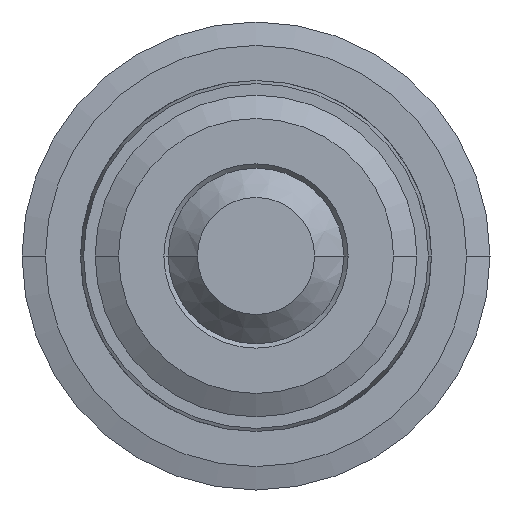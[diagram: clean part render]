
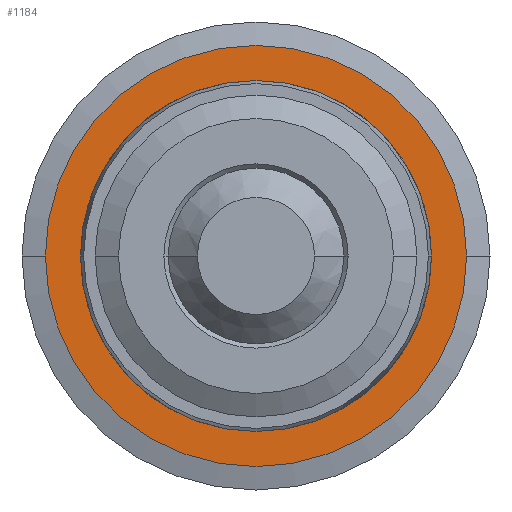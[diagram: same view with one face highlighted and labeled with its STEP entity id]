
A CAD part, left-side view. The second image highlights one B-rep face of the part: STEP entity #1184.
In plain terms, the highlighted planar face has unit normal (-1, 0, 0).
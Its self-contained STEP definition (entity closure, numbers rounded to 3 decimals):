
#72=CARTESIAN_POINT('',(-12.9,0.,0.));
#73=DIRECTION('',(-1.,0.,0.));
#74=DIRECTION('',(0.,1.,0.));
#75=AXIS2_PLACEMENT_3D('',#72,#73,#74);
#81=CARTESIAN_POINT('',(-12.9,0.,0.));
#82=DIRECTION('',(-1.,0.,0.));
#83=DIRECTION('',(0.,-1.,0.));
#84=AXIS2_PLACEMENT_3D('',#81,#82,#83);
#455=CARTESIAN_POINT('',(-12.9,0.,0.));
#456=DIRECTION('',(1.,0.,0.));
#457=DIRECTION('',(0.,1.,0.));
#458=AXIS2_PLACEMENT_3D('',#455,#456,#457);
#477=CARTESIAN_POINT('',(-12.9,0.,0.));
#478=DIRECTION('',(-1.,0.,0.));
#479=DIRECTION('',(0.,1.,0.));
#480=AXIS2_PLACEMENT_3D('',#477,#478,#479);
#1015=CARTESIAN_POINT('',(-12.9,3.,0.));
#1017=VERTEX_POINT('',#1015);
#1019=CARTESIAN_POINT('',(-12.9,-3.,0.));
#1021=VERTEX_POINT('',#1019);
#1067=CARTESIAN_POINT('',(-12.9,3.6,0.));
#1068=CARTESIAN_POINT('',(-12.9,-3.6,0.));
#1069=VERTEX_POINT('',#1067);
#1070=VERTEX_POINT('',#1068);
#1167=CARTESIAN_POINT('',(-12.9,0.,0.));
#1168=DIRECTION('',(1.,0.,0.));
#1169=DIRECTION('',(0.,-1.,0.));
#1170=AXIS2_PLACEMENT_3D('',#1167,#1168,#1169);
#1171=PLANE('',#1170);
#1173=ORIENTED_EDGE('',*,*,#1172,.F.);
#1175=ORIENTED_EDGE('',*,*,#1174,.F.);
#1176=EDGE_LOOP('',(#1173,#1175));
#1177=FACE_OUTER_BOUND('',#1176,.F.);
#1179=ORIENTED_EDGE('',*,*,#1178,.F.);
#1181=ORIENTED_EDGE('',*,*,#1180,.T.);
#1182=EDGE_LOOP('',(#1179,#1181));
#1183=FACE_BOUND('',#1182,.F.);
#1184=ADVANCED_FACE('',(#1177,#1183),#1171,.F.);
#76=CIRCLE('',#75,3.6);
#85=CIRCLE('',#84,3.6);
#459=CIRCLE('',#458,3.);
#481=CIRCLE('',#480,3.);
#1172=EDGE_CURVE('',#1069,#1070,#76,.T.);
#1174=EDGE_CURVE('',#1070,#1069,#85,.T.);
#1178=EDGE_CURVE('',#1017,#1021,#459,.T.);
#1180=EDGE_CURVE('',#1017,#1021,#481,.T.);
